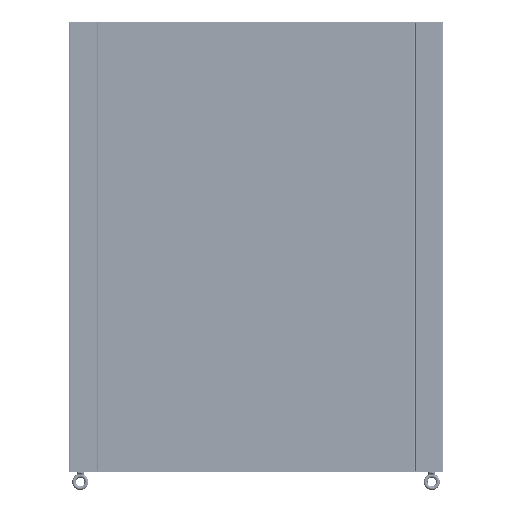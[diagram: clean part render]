
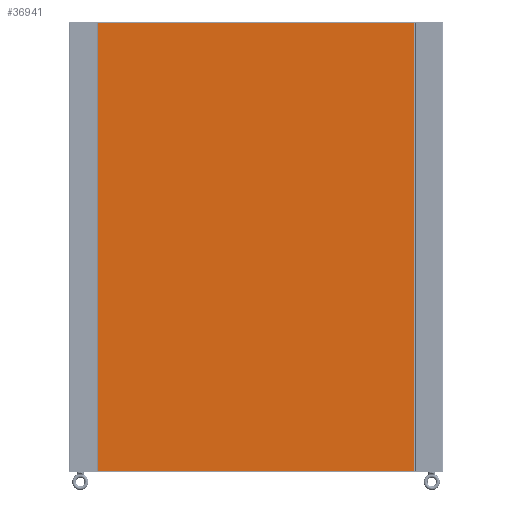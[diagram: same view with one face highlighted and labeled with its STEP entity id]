
A CAD part, left-side view. The second image highlights one B-rep face of the part: STEP entity #36941.
In plain terms, the highlighted planar face has unit normal (-1, 0, 0) as drawn and (0, 0, -1) by its records, which use the part's own axes.
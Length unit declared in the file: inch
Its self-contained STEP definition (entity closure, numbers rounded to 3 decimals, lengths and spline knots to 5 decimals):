
#35962=DIRECTION('',(0.,-1.,0.));
#35963=VECTOR('',#35962,71.792);
#35964=CARTESIAN_POINT('',(-25.311,35.896,-0.104));
#35965=LINE('',#35964,#35963);
#36152=DIRECTION('',(0.,1.,0.));
#36153=VECTOR('',#36152,71.792);
#36154=CARTESIAN_POINT('',(25.311,-35.896,-0.104));
#36155=LINE('',#36154,#36153);
#36313=DIRECTION('',(-1.,0.,0.));
#36314=VECTOR('',#36313,50.622);
#36315=CARTESIAN_POINT('',(25.311,35.896,-0.104));
#36316=LINE('',#36315,#36314);
#36320=DIRECTION('',(1.,0.,0.));
#36321=VECTOR('',#36320,50.622);
#36322=CARTESIAN_POINT('',(-25.311,-35.896,-0.104));
#36323=LINE('',#36322,#36321);
#36331=CARTESIAN_POINT('',(-25.311,-35.896,-0.104));
#36332=VERTEX_POINT('',#36331);
#36333=CARTESIAN_POINT('',(-25.311,35.896,-0.104));
#36334=VERTEX_POINT('',#36333);
#36347=CARTESIAN_POINT('',(25.311,35.896,-0.104));
#36348=VERTEX_POINT('',#36347);
#36349=CARTESIAN_POINT('',(25.311,-35.896,-0.104));
#36350=VERTEX_POINT('',#36349);
#36930=CARTESIAN_POINT('',(0.,0.,-0.104));
#36931=DIRECTION('',(0.,0.,1.));
#36932=DIRECTION('',(1.,0.,0.));
#36933=AXIS2_PLACEMENT_3D('',#36930,#36931,#36932);
#36934=PLANE('',#36933);
#36935=ORIENTED_EDGE('',*,*,#36422,.T.);
#36936=ORIENTED_EDGE('',*,*,#36467,.T.);
#36937=ORIENTED_EDGE('',*,*,#36681,.T.);
#36938=ORIENTED_EDGE('',*,*,#36725,.T.);
#36939=EDGE_LOOP('',(#36935,#36936,#36937,#36938));
#36940=FACE_OUTER_BOUND('',#36939,.F.);
#36422=EDGE_CURVE('',#36348,#36334,#36316,.T.);
#36467=EDGE_CURVE('',#36334,#36332,#35965,.T.);
#36681=EDGE_CURVE('',#36332,#36350,#36323,.T.);
#36725=EDGE_CURVE('',#36350,#36348,#36155,.T.);
#36941=ADVANCED_FACE('',(#36940),#36934,.F.);
